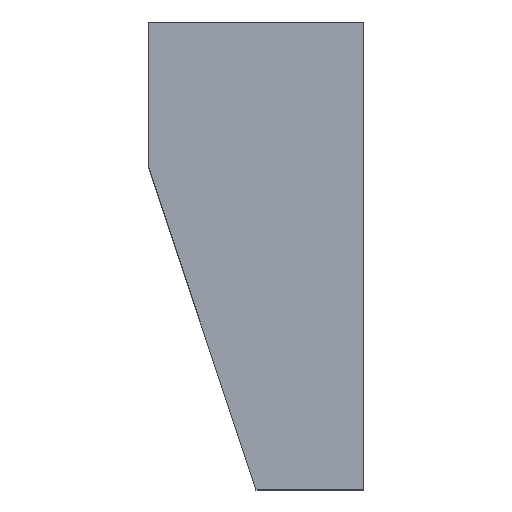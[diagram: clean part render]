
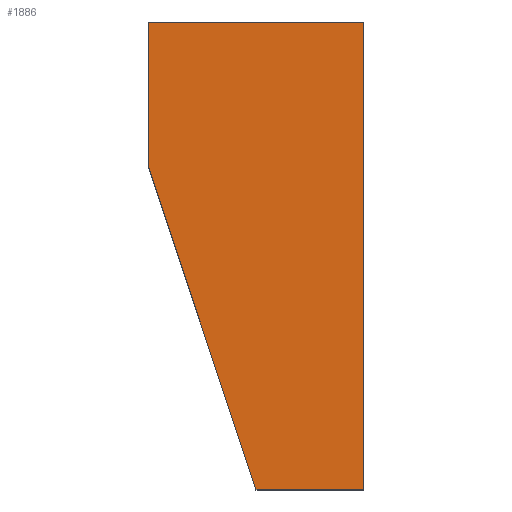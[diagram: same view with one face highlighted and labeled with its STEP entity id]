
A CAD part, top view. The second image highlights one B-rep face of the part: STEP entity #1886.
In plain terms, the highlighted planar face has unit normal (0, 0, 1).
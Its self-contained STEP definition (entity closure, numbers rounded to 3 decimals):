
#139 = PLANE('',#140);
#140 = AXIS2_PLACEMENT_3D('',#141,#142,#143);
#141 = CARTESIAN_POINT('',(8.995,28.447,0.));
#142 = DIRECTION('',(1.,0.,0.));
#143 = DIRECTION('',(0.,0.,-1.));
#293 = VERTEX_POINT('',#294);
#294 = CARTESIAN_POINT('',(8.995,28.447,60.));
#308 = PLANE('',#309);
#309 = AXIS2_PLACEMENT_3D('',#310,#311,#312);
#310 = CARTESIAN_POINT('',(-21.005,28.447,0.));
#311 = DIRECTION('',(0.,1.,0.));
#312 = DIRECTION('',(0.,-0.,1.));
#320 = EDGE_CURVE('',#293,#321,#323,.T.);
#321 = VERTEX_POINT('',#322);
#322 = CARTESIAN_POINT('',(8.995,-36.553,60.));
#323 = SURFACE_CURVE('',#324,(#328,#335),.PCURVE_S1.);
#324 = LINE('',#325,#326);
#325 = CARTESIAN_POINT('',(8.995,28.447,60.));
#326 = VECTOR('',#327,1.);
#327 = DIRECTION('',(0.,-1.,0.));
#328 = PCURVE('',#139,#329);
#329 = DEFINITIONAL_REPRESENTATION('',(#330),#334);
#330 = LINE('',#331,#332);
#331 = CARTESIAN_POINT('',(-60.,0.));
#332 = VECTOR('',#333,1.);
#333 = DIRECTION('',(0.,-1.));
#334 = ( GEOMETRIC_REPRESENTATION_CONTEXT(2) 
PARAMETRIC_REPRESENTATION_CONTEXT() REPRESENTATION_CONTEXT('2D SPACE',''
  ) );
#335 = PCURVE('',#336,#341);
#336 = PLANE('',#337);
#337 = AXIS2_PLACEMENT_3D('',#338,#339,#340);
#338 = CARTESIAN_POINT('',(-3.571,-1.442,60.));
#339 = DIRECTION('',(0.,0.,1.));
#340 = DIRECTION('',(1.,0.,-0.));
#341 = DEFINITIONAL_REPRESENTATION('',(#342),#346);
#342 = LINE('',#343,#344);
#343 = CARTESIAN_POINT('',(12.567,29.89));
#344 = VECTOR('',#345,1.);
#345 = DIRECTION('',(0.,-1.));
#346 = ( GEOMETRIC_REPRESENTATION_CONTEXT(2) 
PARAMETRIC_REPRESENTATION_CONTEXT() REPRESENTATION_CONTEXT('2D SPACE',''
  ) );
#364 = PLANE('',#365);
#365 = AXIS2_PLACEMENT_3D('',#366,#367,#368);
#366 = CARTESIAN_POINT('',(8.995,-36.553,0.));
#367 = DIRECTION('',(0.,-1.,0.));
#368 = DIRECTION('',(0.,0.,-1.));
#1204 = PLANE('',#1205);
#1205 = AXIS2_PLACEMENT_3D('',#1206,#1207,#1208);
#1206 = CARTESIAN_POINT('',(-6.005,-36.553,0.));
#1207 = DIRECTION('',(-0.949,-0.316,0.));
#1208 = DIRECTION('',(0.,0.,1.));
#1739 = VERTEX_POINT('',#1740);
#1740 = CARTESIAN_POINT('',(-21.005,28.447,60.));
#1754 = PLANE('',#1755);
#1755 = AXIS2_PLACEMENT_3D('',#1756,#1757,#1758);
#1756 = CARTESIAN_POINT('',(-21.005,8.447,0.));
#1757 = DIRECTION('',(-1.,0.,0.));
#1758 = DIRECTION('',(0.,0.,1.));
#1766 = EDGE_CURVE('',#1739,#293,#1767,.T.);
#1767 = SURFACE_CURVE('',#1768,(#1772,#1779),.PCURVE_S1.);
#1768 = LINE('',#1769,#1770);
#1769 = CARTESIAN_POINT('',(-21.005,28.447,60.));
#1770 = VECTOR('',#1771,1.);
#1771 = DIRECTION('',(1.,0.,0.));
#1772 = PCURVE('',#308,#1773);
#1773 = DEFINITIONAL_REPRESENTATION('',(#1774),#1778);
#1774 = LINE('',#1775,#1776);
#1775 = CARTESIAN_POINT('',(60.,0.));
#1776 = VECTOR('',#1777,1.);
#1777 = DIRECTION('',(0.,1.));
#1778 = ( GEOMETRIC_REPRESENTATION_CONTEXT(2) 
PARAMETRIC_REPRESENTATION_CONTEXT() REPRESENTATION_CONTEXT('2D SPACE',''
  ) );
#1779 = PCURVE('',#336,#1780);
#1780 = DEFINITIONAL_REPRESENTATION('',(#1781),#1785);
#1781 = LINE('',#1782,#1783);
#1782 = CARTESIAN_POINT('',(-17.433,29.89));
#1783 = VECTOR('',#1784,1.);
#1784 = DIRECTION('',(1.,0.));
#1785 = ( GEOMETRIC_REPRESENTATION_CONTEXT(2) 
PARAMETRIC_REPRESENTATION_CONTEXT() REPRESENTATION_CONTEXT('2D SPACE',''
  ) );
#1886 = ADVANCED_FACE('',(#1887),#336,.T.);
#1887 = FACE_BOUND('',#1888,.T.);
#1888 = EDGE_LOOP('',(#1889,#1912,#1913,#1914,#1937));
#1889 = ORIENTED_EDGE('',*,*,#1890,.F.);
#1890 = EDGE_CURVE('',#321,#1891,#1893,.T.);
#1891 = VERTEX_POINT('',#1892);
#1892 = CARTESIAN_POINT('',(-6.005,-36.553,60.));
#1893 = SURFACE_CURVE('',#1894,(#1898,#1905),.PCURVE_S1.);
#1894 = LINE('',#1895,#1896);
#1895 = CARTESIAN_POINT('',(8.995,-36.553,60.));
#1896 = VECTOR('',#1897,1.);
#1897 = DIRECTION('',(-1.,0.,0.));
#1898 = PCURVE('',#336,#1899);
#1899 = DEFINITIONAL_REPRESENTATION('',(#1900),#1904);
#1900 = LINE('',#1901,#1902);
#1901 = CARTESIAN_POINT('',(12.567,-35.11));
#1902 = VECTOR('',#1903,1.);
#1903 = DIRECTION('',(-1.,0.));
#1904 = ( GEOMETRIC_REPRESENTATION_CONTEXT(2) 
PARAMETRIC_REPRESENTATION_CONTEXT() REPRESENTATION_CONTEXT('2D SPACE',''
  ) );
#1905 = PCURVE('',#364,#1906);
#1906 = DEFINITIONAL_REPRESENTATION('',(#1907),#1911);
#1907 = LINE('',#1908,#1909);
#1908 = CARTESIAN_POINT('',(-60.,0.));
#1909 = VECTOR('',#1910,1.);
#1910 = DIRECTION('',(0.,-1.));
#1911 = ( GEOMETRIC_REPRESENTATION_CONTEXT(2) 
PARAMETRIC_REPRESENTATION_CONTEXT() REPRESENTATION_CONTEXT('2D SPACE',''
  ) );
#1912 = ORIENTED_EDGE('',*,*,#320,.F.);
#1913 = ORIENTED_EDGE('',*,*,#1766,.F.);
#1914 = ORIENTED_EDGE('',*,*,#1915,.F.);
#1915 = EDGE_CURVE('',#1916,#1739,#1918,.T.);
#1916 = VERTEX_POINT('',#1917);
#1917 = CARTESIAN_POINT('',(-21.005,8.447,60.));
#1918 = SURFACE_CURVE('',#1919,(#1923,#1930),.PCURVE_S1.);
#1919 = LINE('',#1920,#1921);
#1920 = CARTESIAN_POINT('',(-21.005,8.447,60.));
#1921 = VECTOR('',#1922,1.);
#1922 = DIRECTION('',(0.,1.,0.));
#1923 = PCURVE('',#336,#1924);
#1924 = DEFINITIONAL_REPRESENTATION('',(#1925),#1929);
#1925 = LINE('',#1926,#1927);
#1926 = CARTESIAN_POINT('',(-17.433,9.89));
#1927 = VECTOR('',#1928,1.);
#1928 = DIRECTION('',(0.,1.));
#1929 = ( GEOMETRIC_REPRESENTATION_CONTEXT(2) 
PARAMETRIC_REPRESENTATION_CONTEXT() REPRESENTATION_CONTEXT('2D SPACE',''
  ) );
#1930 = PCURVE('',#1754,#1931);
#1931 = DEFINITIONAL_REPRESENTATION('',(#1932),#1936);
#1932 = LINE('',#1933,#1934);
#1933 = CARTESIAN_POINT('',(60.,0.));
#1934 = VECTOR('',#1935,1.);
#1935 = DIRECTION('',(0.,1.));
#1936 = ( GEOMETRIC_REPRESENTATION_CONTEXT(2) 
PARAMETRIC_REPRESENTATION_CONTEXT() REPRESENTATION_CONTEXT('2D SPACE',''
  ) );
#1937 = ORIENTED_EDGE('',*,*,#1938,.F.);
#1938 = EDGE_CURVE('',#1891,#1916,#1939,.T.);
#1939 = SURFACE_CURVE('',#1940,(#1944,#1951),.PCURVE_S1.);
#1940 = LINE('',#1941,#1942);
#1941 = CARTESIAN_POINT('',(-6.005,-36.553,60.));
#1942 = VECTOR('',#1943,1.);
#1943 = DIRECTION('',(-0.316,0.949,0.));
#1944 = PCURVE('',#336,#1945);
#1945 = DEFINITIONAL_REPRESENTATION('',(#1946),#1950);
#1946 = LINE('',#1947,#1948);
#1947 = CARTESIAN_POINT('',(-2.433,-35.11));
#1948 = VECTOR('',#1949,1.);
#1949 = DIRECTION('',(-0.316,0.949));
#1950 = ( GEOMETRIC_REPRESENTATION_CONTEXT(2) 
PARAMETRIC_REPRESENTATION_CONTEXT() REPRESENTATION_CONTEXT('2D SPACE',''
  ) );
#1951 = PCURVE('',#1204,#1952);
#1952 = DEFINITIONAL_REPRESENTATION('',(#1953),#1957);
#1953 = LINE('',#1954,#1955);
#1954 = CARTESIAN_POINT('',(60.,0.));
#1955 = VECTOR('',#1956,1.);
#1956 = DIRECTION('',(0.,1.));
#1957 = ( GEOMETRIC_REPRESENTATION_CONTEXT(2) 
PARAMETRIC_REPRESENTATION_CONTEXT() REPRESENTATION_CONTEXT('2D SPACE',''
  ) );
